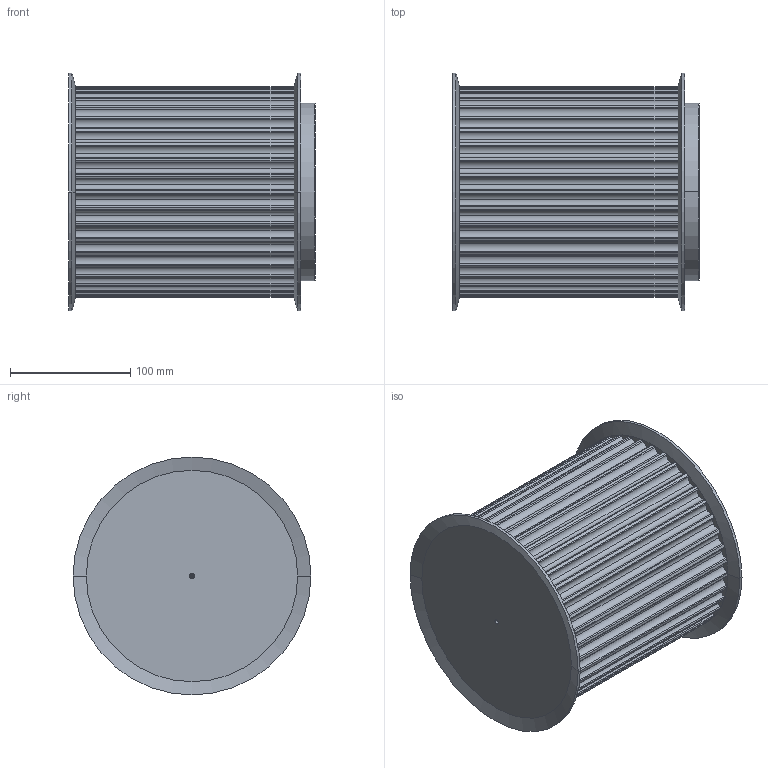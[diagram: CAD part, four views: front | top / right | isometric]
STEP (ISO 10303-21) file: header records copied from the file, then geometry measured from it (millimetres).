
FILE_DESCRIPTION(('STEP AP203'),'1');
FILE_NAME('40_-_14_m_170.stp','2020-01-21T10:45:27',('TraceParts'),('TraceParts S.A.'),'Spatial InterOp 3D',' ',' ');
FILE_SCHEMA(('CONFIG_CONTROL_DESIGN'));
Length unit declared in the file: millimetre
Products named in the file (1): 1
Bounding box: 204.95 x 198 x 198 mm (x, y, z)
Volume: 4555971.3 mm3; surface area: 219815 mm2
Topology: 1 solids, 1 shells, 233 faces, 668 edges, 438 vertices
Faces by surface type: cylinder 210, cone 18, plane 5
Entity records: 7886 total; most frequent: DIRECTION 1568, CARTESIAN_POINT 1336, ORIENTED_EDGE 1328, AXIS2_PLACEMENT_3D 670, EDGE_CURVE 664, VERTEX_POINT 438, CIRCLE 436, EDGE_LOOP 238
